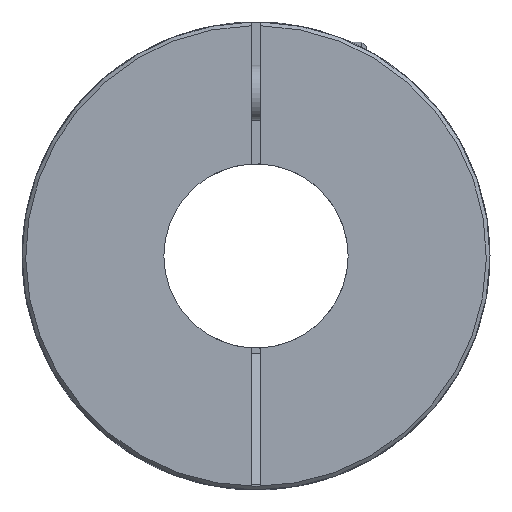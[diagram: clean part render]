
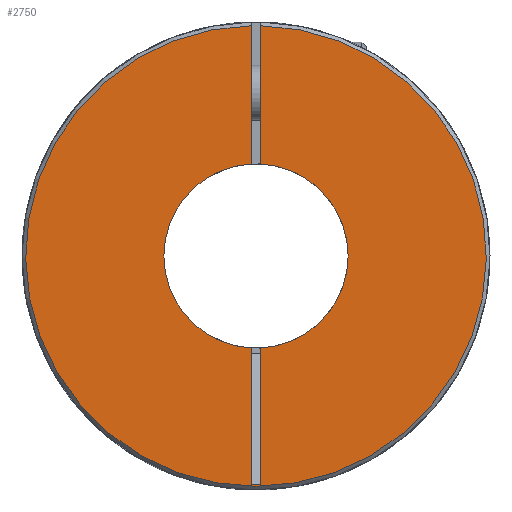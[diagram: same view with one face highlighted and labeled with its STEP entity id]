
A CAD part, front view. The second image highlights one B-rep face of the part: STEP entity #2750.
In plain terms, the highlighted planar face has unit normal (0, -1, 0).
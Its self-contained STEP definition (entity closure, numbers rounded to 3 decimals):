
#1=DIRECTION('',(0.,0.,-1.));
#2=VECTOR('',#1,7.504);
#3=CARTESIAN_POINT('',(-0.25,-15.9,12.498));
#4=LINE('',#3,#2);
#5=CARTESIAN_POINT('',(0.,-15.9,0.));
#6=DIRECTION('',(0.,1.,0.));
#7=DIRECTION('',(-1.,0.,0.));
#8=AXIS2_PLACEMENT_3D('',#5,#6,#7);
#10=CARTESIAN_POINT('',(0.,-15.9,0.));
#11=DIRECTION('',(0.,1.,0.));
#12=DIRECTION('',(-0.05,0.,-0.999));
#13=AXIS2_PLACEMENT_3D('',#10,#11,#12);
#15=DIRECTION('',(0.,0.,-1.));
#16=VECTOR('',#15,7.388);
#17=CARTESIAN_POINT('',(-0.25,-15.9,-4.994));
#18=LINE('',#17,#16);
#19=DIRECTION('',(1.,0.,0.));
#20=VECTOR('',#19,0.5);
#21=CARTESIAN_POINT('',(-0.25,-15.9,-12.382));
#22=LINE('',#21,#20);
#23=DIRECTION('',(0.,0.,-1.));
#24=VECTOR('',#23,7.388);
#25=CARTESIAN_POINT('',(0.25,-15.9,-4.994));
#26=LINE('',#25,#24);
#27=DIRECTION('',(0.,0.,-1.));
#28=VECTOR('',#27,7.504);
#29=CARTESIAN_POINT('',(0.25,-15.9,12.498));
#30=LINE('',#29,#28);
#1991=CARTESIAN_POINT('',(0.,-15.9,0.));
#1992=DIRECTION('',(0.,-1.,0.));
#1993=DIRECTION('',(-0.02,0.,1.));
#1994=AXIS2_PLACEMENT_3D('',#1991,#1992,#1993);
#2029=CARTESIAN_POINT('',(0.,-15.9,0.));
#2030=DIRECTION('',(0.,1.,0.));
#2031=DIRECTION('',(0.05,0.,0.999));
#2032=AXIS2_PLACEMENT_3D('',#2029,#2030,#2031);
#2463=CARTESIAN_POINT('',(-5.,-15.9,0.));
#2464=VERTEX_POINT('',#2463);
#2534=CARTESIAN_POINT('',(-0.25,-15.9,-12.382));
#2536=VERTEX_POINT('',#2534);
#2538=CARTESIAN_POINT('',(0.25,-15.9,-12.382));
#2540=VERTEX_POINT('',#2538);
#2585=CARTESIAN_POINT('',(-0.25,-15.9,12.498));
#2586=CARTESIAN_POINT('',(-0.25,-15.9,4.994));
#2587=VERTEX_POINT('',#2585);
#2588=VERTEX_POINT('',#2586);
#2589=CARTESIAN_POINT('',(-0.25,-15.9,-4.994));
#2590=VERTEX_POINT('',#2589);
#2591=CARTESIAN_POINT('',(0.25,-15.9,12.498));
#2592=CARTESIAN_POINT('',(0.25,-15.9,4.994));
#2593=VERTEX_POINT('',#2591);
#2594=VERTEX_POINT('',#2592);
#2595=CARTESIAN_POINT('',(0.25,-15.9,-4.994));
#2596=VERTEX_POINT('',#2595);
#2725=CARTESIAN_POINT('',(0.,-15.9,0.));
#2726=DIRECTION('',(0.,1.,0.));
#2727=DIRECTION('',(1.,0.,0.));
#2728=AXIS2_PLACEMENT_3D('',#2725,#2726,#2727);
#2729=PLANE('',#2728);
#2731=ORIENTED_EDGE('',*,*,#2730,.T.);
#2733=ORIENTED_EDGE('',*,*,#2732,.F.);
#2735=ORIENTED_EDGE('',*,*,#2734,.F.);
#2737=ORIENTED_EDGE('',*,*,#2736,.T.);
#2739=ORIENTED_EDGE('',*,*,#2738,.T.);
#2741=ORIENTED_EDGE('',*,*,#2740,.F.);
#2743=ORIENTED_EDGE('',*,*,#2742,.F.);
#2745=ORIENTED_EDGE('',*,*,#2744,.F.);
#2747=ORIENTED_EDGE('',*,*,#2746,.F.);
#2748=EDGE_LOOP('',(#2731,#2733,#2735,#2737,#2739,#2741,#2743,#2745,#2747));
#2749=FACE_OUTER_BOUND('',#2748,.F.);
#2750=ADVANCED_FACE('',(#2749),#2729,.F.);
#9=CIRCLE('',#8,5.);
#14=CIRCLE('',#13,5.);
#1995=CIRCLE('',#1994,12.5);
#2033=CIRCLE('',#2032,5.);
#2730=EDGE_CURVE('',#2587,#2588,#4,.T.);
#2732=EDGE_CURVE('',#2464,#2588,#9,.T.);
#2734=EDGE_CURVE('',#2590,#2464,#14,.T.);
#2736=EDGE_CURVE('',#2590,#2536,#18,.T.);
#2738=EDGE_CURVE('',#2536,#2540,#22,.T.);
#2740=EDGE_CURVE('',#2596,#2540,#26,.T.);
#2742=EDGE_CURVE('',#2594,#2596,#2033,.T.);
#2744=EDGE_CURVE('',#2593,#2594,#30,.T.);
#2746=EDGE_CURVE('',#2587,#2593,#1995,.T.);
